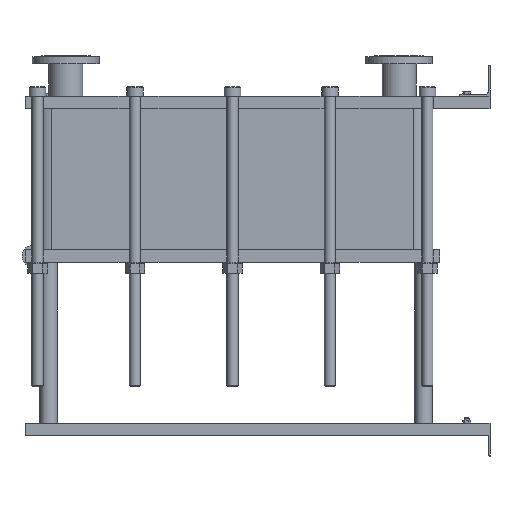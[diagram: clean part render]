
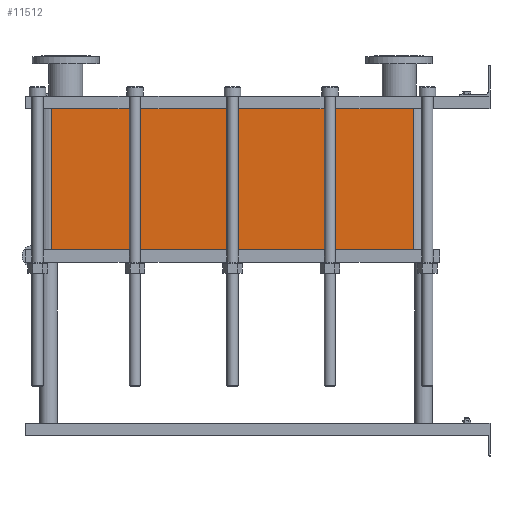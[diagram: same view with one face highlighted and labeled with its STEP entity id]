
A CAD part, left-side view. The second image highlights one B-rep face of the part: STEP entity #11512.
In plain terms, the highlighted planar face has unit normal (-1, 0, 0).
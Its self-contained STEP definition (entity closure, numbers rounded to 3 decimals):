
#1129=LINE('',#23232,#2102);
#1130=LINE('',#23236,#2103);
#1131=LINE('',#23238,#2104);
#1132=LINE('',#23239,#2105);
#2102=VECTOR('',#15887,10.);
#2103=VECTOR('',#15892,10.);
#2104=VECTOR('',#15893,10.);
#2105=VECTOR('',#15894,10.);
#3267=FACE_OUTER_BOUND('',#4093,.T.);
#4093=EDGE_LOOP('',(#10103,#10104,#10105,#10106));
#5642=VERTEX_POINT('',#23229);
#5643=VERTEX_POINT('',#23231);
#5644=VERTEX_POINT('',#23235);
#5645=VERTEX_POINT('',#23237);
#7159=EDGE_CURVE('',#5643,#5642,#1129,.T.);
#7161=EDGE_CURVE('',#5642,#5644,#1130,.T.);
#7162=EDGE_CURVE('',#5645,#5644,#1131,.T.);
#7163=EDGE_CURVE('',#5645,#5643,#1132,.T.);
#10103=ORIENTED_EDGE('',*,*,#7161,.T.);
#10104=ORIENTED_EDGE('',*,*,#7162,.F.);
#10105=ORIENTED_EDGE('',*,*,#7163,.T.);
#10106=ORIENTED_EDGE('',*,*,#7159,.T.);
#10857=PLANE('',#12751);
#11512=ADVANCED_FACE('',(#3267),#10857,.T.);
#12751=AXIS2_PLACEMENT_3D('',#23234,#15890,#15891);
#15887=DIRECTION('',(0.,0.,-1.));
#15890=DIRECTION('center_axis',(-1.,0.,0.));
#15891=DIRECTION('ref_axis',(0.,1.,0.));
#15892=DIRECTION('',(0.,-1.,0.));
#15893=DIRECTION('',(0.,0.,-1.));
#15894=DIRECTION('',(0.,1.,0.));
#23229=CARTESIAN_POINT('',(-200.,1414.,-455.4));
#23231=CARTESIAN_POINT('',(-200.,1414.,0.));
#23232=CARTESIAN_POINT('',(-200.,1414.,0.));
#23234=CARTESIAN_POINT('Origin',(-200.,248.,0.));
#23235=CARTESIAN_POINT('',(-200.,248.,-455.4));
#23236=CARTESIAN_POINT('',(-200.,539.5,-455.4));
#23237=CARTESIAN_POINT('',(-200.,248.,0.));
#23238=CARTESIAN_POINT('',(-200.,248.,0.));
#23239=CARTESIAN_POINT('',(-200.,248.,0.));
